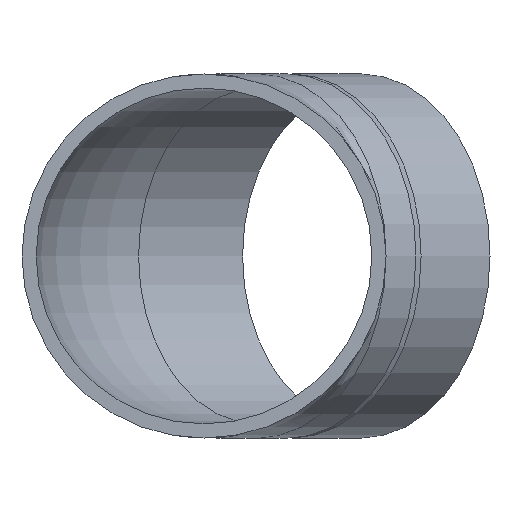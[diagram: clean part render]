
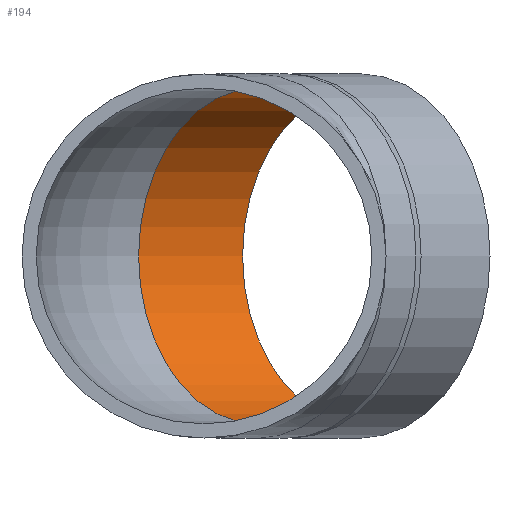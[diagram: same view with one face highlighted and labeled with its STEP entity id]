
A CAD part, front view. The second image highlights one B-rep face of the part: STEP entity #194.
In plain terms, the highlighted cylindrical face has radius 41.5 mm (diameter 83 mm), a full revolution.
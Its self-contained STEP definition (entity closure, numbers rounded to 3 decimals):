
#17=CYLINDRICAL_SURFACE($,#223,41.5);
#30=FACE_BOUND($,#71,.T.);
#50=FACE_OUTER_BOUND($,#70,.T.);
#70=EDGE_LOOP($,(#147));
#71=EDGE_LOOP($,(#148));
#96=CIRCLE($,#224,41.5);
#97=CIRCLE($,#225,41.5);
#111=VERTEX_POINT($,#369);
#112=VERTEX_POINT($,#371);
#127=EDGE_CURVE($,#111,#111,#96,.T.);
#128=EDGE_CURVE($,#112,#112,#97,.T.);
#147=ORIENTED_EDGE($,*,*,#127,.F.);
#148=ORIENTED_EDGE($,*,*,#128,.T.);
#194=ADVANCED_FACE($,(#50,#30),#17,.F.);
#223=AXIS2_PLACEMENT_3D($,#368,#273,#274);
#224=AXIS2_PLACEMENT_3D($,#370,#275,#276);
#225=AXIS2_PLACEMENT_3D($,#372,#277,#278);
#273=DIRECTION('center_axis',(0.707,0.707,0.));
#274=DIRECTION('ref_axis',(0.707,-0.707,0.));
#275=DIRECTION('center_axis',(-0.707,-0.707,0.));
#276=DIRECTION('ref_axis',(0.707,-0.707,0.));
#277=DIRECTION('center_axis',(-0.707,-0.707,0.));
#278=DIRECTION('ref_axis',(0.707,-0.707,0.));
#368=CARTESIAN_POINT('Origin',(13.18,68.18,0.));
#369=CARTESIAN_POINT('',(9.546,123.236,0.));
#370=CARTESIAN_POINT('Origin',(38.891,93.891,0.));
#371=CARTESIAN_POINT('',(-16.165,97.525,0.));
#372=CARTESIAN_POINT('Origin',(13.18,68.18,0.));
